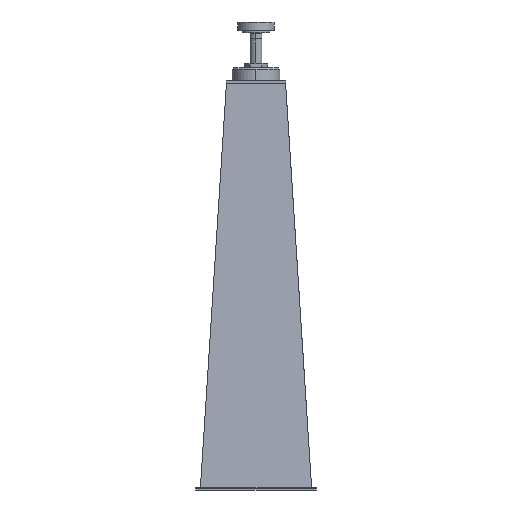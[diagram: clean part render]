
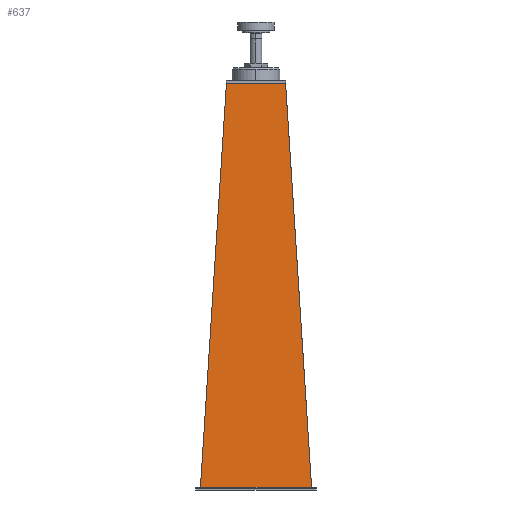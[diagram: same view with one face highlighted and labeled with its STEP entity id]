
A CAD part, left-side view. The second image highlights one B-rep face of the part: STEP entity #637.
In plain terms, the highlighted planar face has unit normal (-0.998, 0, 0.064).
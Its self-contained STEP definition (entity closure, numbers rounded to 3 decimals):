
#637=ADVANCED_FACE('',(#1316),#1317,.F.);
#1316=FACE_OUTER_BOUND('',#2080,.T.);
#1317=PLANE('',#2081);
#2080=EDGE_LOOP('',(#4012,#4013,#4014,#4015));
#2081=AXIS2_PLACEMENT_3D('',#4016,#4017,#4018);
#4012=ORIENTED_EDGE('',*,*,#5097,.T.);
#4013=ORIENTED_EDGE('',*,*,#4855,.F.);
#4014=ORIENTED_EDGE('',*,*,#5117,.F.);
#4015=ORIENTED_EDGE('',*,*,#5113,.T.);
#4016=CARTESIAN_POINT('',(87.837,102.269,935.193));
#4017=DIRECTION('',(0.998,0.,-0.064));
#4018=DIRECTION('',(0.,-1.0,0.));
#4855=EDGE_CURVE('',#5848,#5843,#5850,.T.);
#5097=EDGE_CURVE('',#6168,#5843,#6169,.T.);
#5113=EDGE_CURVE('',#6190,#6168,#6191,.T.);
#5117=EDGE_CURVE('',#6190,#5848,#6196,.T.);
#5843=VERTEX_POINT('',#7454);
#5848=VERTEX_POINT('',#7461);
#5850=LINE('',#7464,#7465);
#6168=VERTEX_POINT('',#8042);
#6169=LINE('',#8043,#8044);
#6190=VERTEX_POINT('',#8075);
#6191=LINE('',#8076,#8077);
#6196=LINE('',#8084,#8085);
#7454=CARTESIAN_POINT('',(28.018,39.456,6.));
#7461=CARTESIAN_POINT('',(87.825,99.263,935.));
#7464=CARTESIAN_POINT('',(88.117,99.555,939.534));
#7465=VECTOR('',#8804,1.);
#8042=CARTESIAN_POINT('',(28.018,295.082,6.));
#8043=CARTESIAN_POINT('',(28.018,134.769,6.));
#8044=VECTOR('',#8976,1.0);
#8075=CARTESIAN_POINT('',(87.825,235.275,935.));
#8076=CARTESIAN_POINT('',(88.117,234.983,939.534));
#8077=VECTOR('',#8987,1.);
#8084=CARTESIAN_POINT('',(87.825,134.769,935.));
#8085=VECTOR('',#8990,1.0);
#8804=DIRECTION('',(-0.064,-0.064,-0.996));
#8976=DIRECTION('',(0.,-1.0,0.));
#8987=DIRECTION('',(-0.064,0.064,-0.996));
#8990=DIRECTION('',(0.,-1.0,0.));
